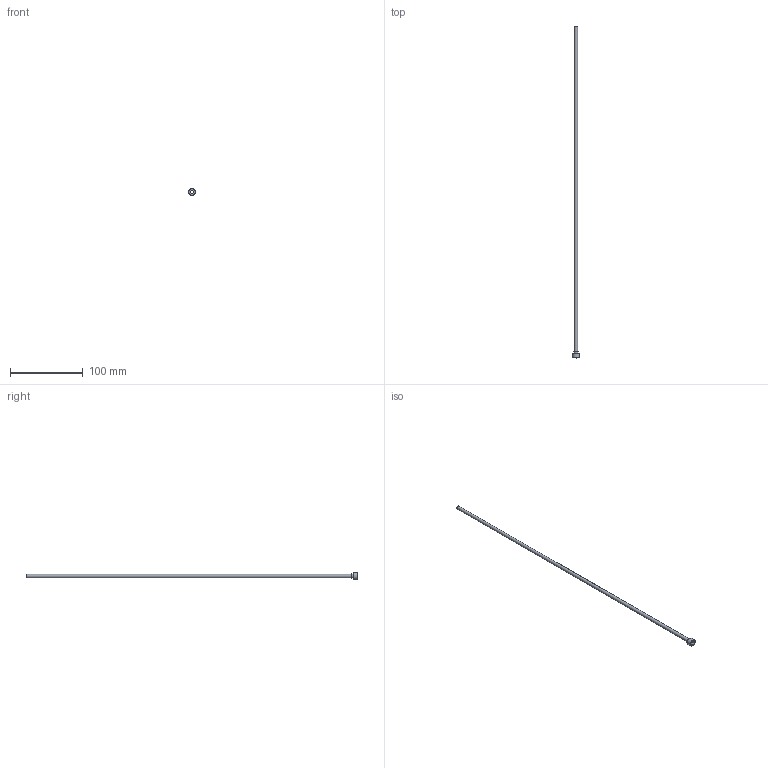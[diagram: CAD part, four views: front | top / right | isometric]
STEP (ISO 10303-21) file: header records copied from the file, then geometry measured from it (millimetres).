
FILE_DESCRIPTION(/* description */ (''),/* implementation_level */ '2;1');
FILE_NAME(/* name */ 'C:/Users/drich/Desktop/PT18-187-18 v1.step',/* time_stamp */ '2019-12-27T15:43:48-06:00',/* author */ (''),/* organization */ (''),/* preprocessor_version */ 'ST-DEVELOPER v18',/* originating_system */ 'Autodesk Translation Framework v8.12.0.6',/* authorisation */ '');
FILE_SCHEMA (('AUTOMOTIVE_DESIGN { 1 0 10303 214 3 1 1 }'));
Length unit declared in the file: inch
Products named in the file (1): PT18-187-18
Bounding box: 9.62 x 457.2 x 9.62 mm (x, y, z)
Volume: 1907.7 mm3; surface area: 13100.3 mm2
Topology: 1 solids, 1 shells, 19 faces, 48 edges, 34 vertices
Faces by surface type: plane 11, cylinder 4, torus 2, cone 2
Full cylindrical faces by diameter (mm): 4.242 x1, 4.724 x1, 6.35 x1, 9.621 x1
Entity records: 633 total; most frequent: DIRECTION 112, CARTESIAN_POINT 102, ORIENTED_EDGE 96, EDGE_CURVE 48, AXIS2_PLACEMENT_3D 44, VERTEX_POINT 34, CIRCLE 24, EDGE_LOOP 24
